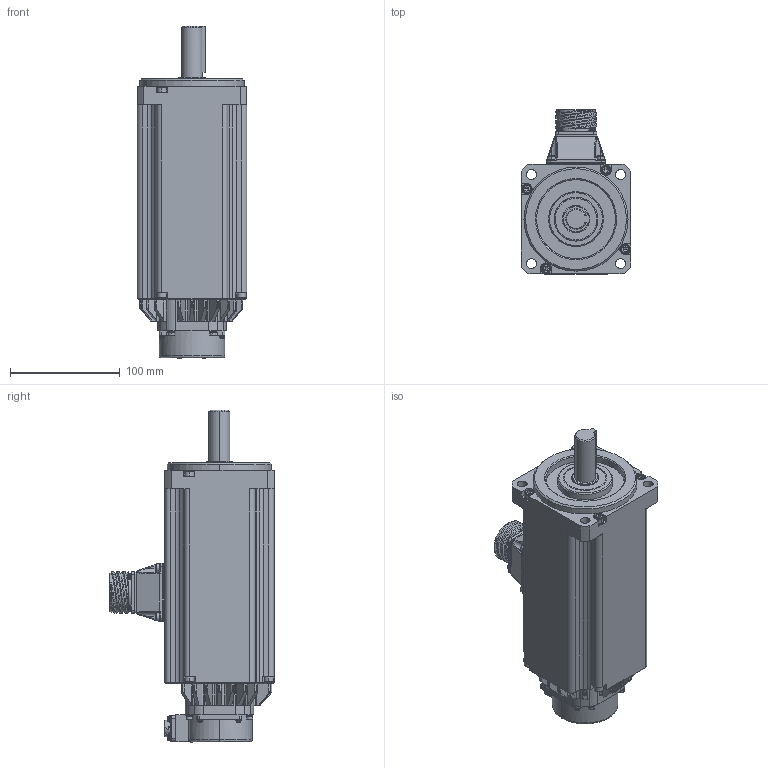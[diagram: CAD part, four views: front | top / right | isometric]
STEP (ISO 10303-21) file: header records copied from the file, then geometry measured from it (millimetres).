
FILE_DESCRIPTION (( 'STEP AP203' ), '1' );
FILE_NAME ('TSM3415N7371E731‘•”z.STEP', '2018-06-23T11:53:13', ( '' ), ( '' ), 'SwSTEP 2.0', 'SolidWorks 2017', '' );
FILE_SCHEMA (( 'CONFIG_CONTROL_DESIGN' ));
Length unit declared in the file: millimetre
Products named in the file (1): TSM3415N7371E731装配
Bounding box: 100 x 150 x 303 mm (x, y, z)
Volume: 2016415.4 mm3; surface area: 155814.9 mm2
Topology: 1 solids, 22 shells, 1803 faces, 4906 edges, 3211 vertices
Faces by surface type: plane 734, cylinder 563, bspline 348, cone 158
Entity records: 86337 total; most frequent: CARTESIAN_POINT 45577, ORIENTED_EDGE 9690, DIRECTION 6407, EDGE_CURVE 4845, VERTEX_POINT 3211, VECTOR 2353, LINE 2353, AXIS2_PLACEMENT_3D 2027
